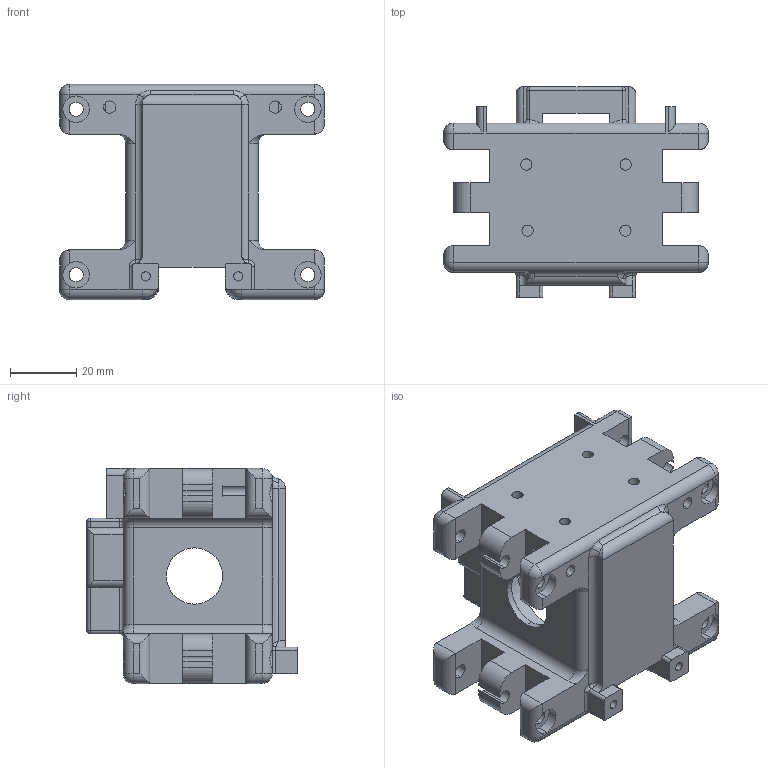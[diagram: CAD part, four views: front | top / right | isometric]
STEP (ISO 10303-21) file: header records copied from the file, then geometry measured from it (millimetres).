
FILE_DESCRIPTION (( 'STEP AP203' ), '1' );
FILE_NAME ('Main Suspension Hub Connector Front.STEP', '2026-01-17T21:10:54', ( '' ), ( '' ), 'SwSTEP 2.0', 'SolidWorks 2026', '' );
FILE_SCHEMA (( 'CONFIG_CONTROL_DESIGN' ));
Length unit declared in the file: millimetre
Products named in the file (1): Main Suspension Hub Connector Front
Bounding box: 80 x 63.5 x 65 mm (x, y, z)
Volume: 93198.1 mm3; surface area: 35782.6 mm2
Topology: 1 solids, 1 shells, 365 faces, 996 edges, 610 vertices
Faces by surface type: cylinder 172, plane 151, torus 20, sphere 12, bspline 10
Entity records: 12127 total; most frequent: CARTESIAN_POINT 2930, ORIENTED_EDGE 1956, DIRECTION 1916, EDGE_CURVE 978, AXIS2_PLACEMENT_3D 682, VERTEX_POINT 610, LINE 552, VECTOR 552
